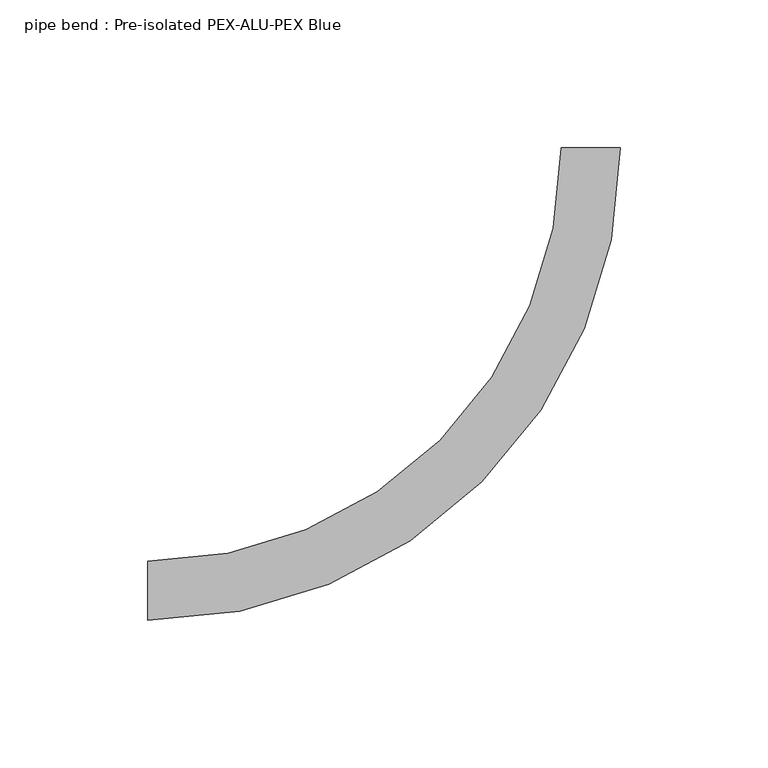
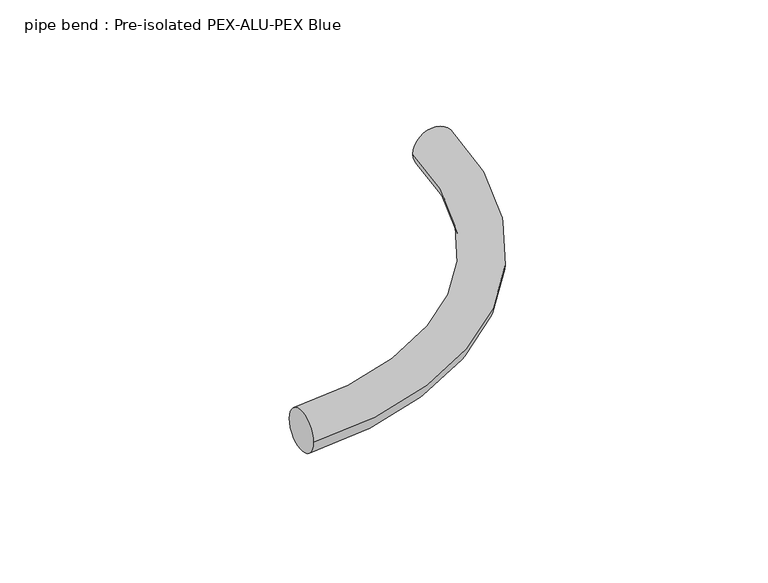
"""IFC4 building model written with IfcOpenShell, lengths in millimetres: pipe fitting geometry, pipe bend : Pre-isolated PEX-ALU-PEX Blue."""

from ifc_helpers import new_model, si_unit, point, frame, origin, place, context, project, spatial, circle_curve, ellipse_curve, trimmed, source, transform, mapped, element, save
from ifc_brep_helpers import plane_surface, revolved_surface, advanced_brep


def pipe_bend_pre_isolated_pex_alu_pex_blue_e4698d2c(model_context):
    return source(origin(), model_context, "Body", "AdvancedBrep", [
        advanced_brep(
        [(-150.0, -10.0, 0.0), (-150.0, 10.0, 0.0), (10.0, 150.0, 0.0), (-10.0, 150.0, 0.0)],
        [
            (0, 1, circle_curve(frame((-150.0, 0.0, 0.0), z_axis=(-1.0, 0.0, 0.0), x_axis=(0.0, 1.0, 0.0)), 10.0)),
            (1, 0, circle_curve(frame((-150.0, 0.0, 0.0), z_axis=(-1.0, 0.0, 0.0), x_axis=(0.0, 1.0, 0.0)), 10.0)),
            (2, 3, circle_curve(frame((0.0, 150.0, 0.0), z_axis=(0.0, 1.0, 0.0), x_axis=(-1.0, 0.0, 0.0)), 10.0)),
            (3, 2, circle_curve(frame((0.0, 150.0, 0.0), z_axis=(0.0, 1.0, 0.0), x_axis=(-1.0, 0.0, 0.0)), 10.0)),
            (3, 1, circle_curve(frame((-150.0, 150.0, 0.0), z_axis=(0.0, 0.0, -1.0), x_axis=(0.0, -1.0, 0.0)), 140.0)),
            (0, 2, circle_curve(frame((-150.0, 150.0, 0.0), z_axis=(0.0, 0.0, 1.0), x_axis=(0.0, -1.0, 0.0)), 160.0)),
        ],
        [
            plane_surface(frame((-150.0, 0.0, 0.0), z_axis=(-1.0, 0.0, 0.0), x_axis=(0.0, 0.0, 1.0))),
            plane_surface(frame((0.0, 150.0, 0.0), z_axis=(0.0, 1.0, 0.0), x_axis=(0.0, 0.0, 1.0))),
            revolved_surface(trimmed(ellipse_curve(frame((-150.0, 0.0, 0.0), z_axis=(-1.0, 0.0, 0.0), x_axis=(0.0, 1.0, 0.0)), 10.0, 10.0), [point((-150.0, -10.0, 0.0))], [point((-150.0, 10.0, 0.0))], True, "CARTESIAN"), (-150.0, 150.0, 0.0), (0.0, 0.0, 1.0)),
            revolved_surface(trimmed(ellipse_curve(frame((-150.0, 0.0, 0.0), z_axis=(-1.0, 0.0, 0.0), x_axis=(0.0, 1.0, 0.0)), 10.0, 10.0), [point((-150.0, 10.0, 0.0))], [point((-150.0, -10.0, 0.0))], True, "CARTESIAN"), (-150.0, 150.0, 0.0), (0.0, 0.0, 1.0)),
        ],
        [
            (0, [[1, 2]]),
            (1, [[3, 4]]),
            (2, [[5, -1, 6, -4]]),
            (3, [[-6, -2, -5, -3]]),
        ],
    ),
    ])


if __name__ == "__main__":
    model = new_model("IFC4")
    model_context = context("Model", 3, world=origin())
    ifc_project = project(units=[si_unit("LENGTHUNIT", "METRE", prefix="MILLI")], contexts=[model_context])
    site = spatial("IfcSite", under=ifc_project)
    building = spatial("IfcBuilding", under=site)
    placement = place(None, origin())
    pipe_bend_pre_isolated_pex_alu_pex_blue_shape = pipe_bend_pre_isolated_pex_alu_pex_blue_e4698d2c(model_context)
    element("IfcPipeFitting", 1, ObjectType="pipe bend : Pre-isolated PEX-ALU-PEX Blue", at=placement, inside=building, context=model_context, shape_type="MappedRepresentation", body=[
        mapped(pipe_bend_pre_isolated_pex_alu_pex_blue_shape, transform((0.0, 0.0, 0.0), x_axis=(1.0, 0.0, 0.0), y_axis=(0.0, 1.0, 0.0), z_axis=(0.0, 0.0, 1.0))),
    ])
    save(model, "model.ifc")
